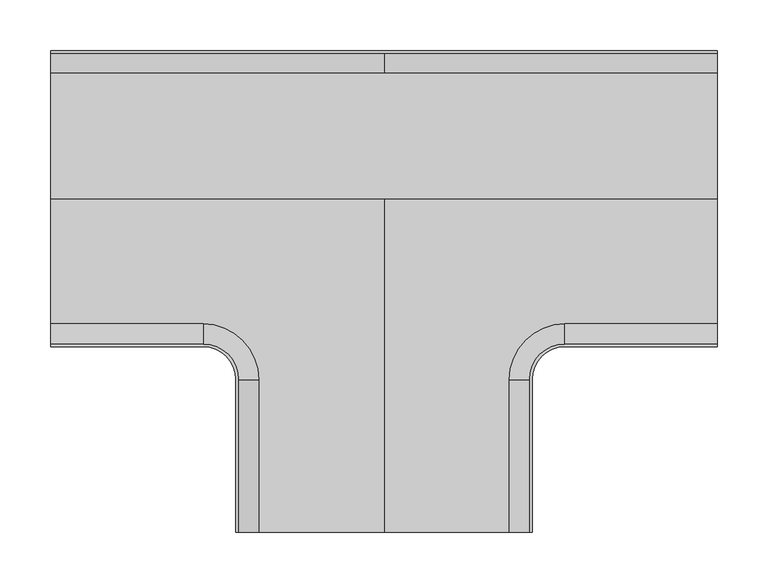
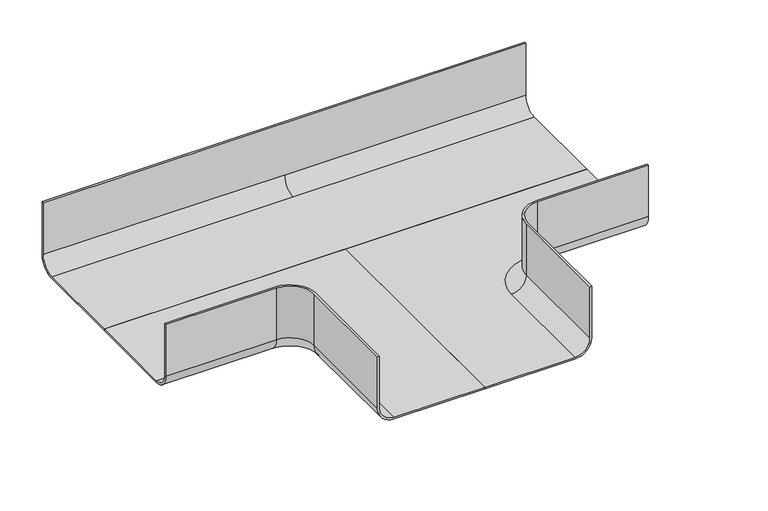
"""IFC4 building model written with IfcOpenShell, lengths in millimetres: cable carrier fitting geometry, ССT_Hyperline_FBTR-TEE Ответвитель Т-образный пластиковый : Ответвитель Т-образный пластиковый."""

from ifc_helpers import new_model, si_unit, point, frame, origin, place, context, project, spatial, polyline, circle_curve, ellipse_curve, trimmed, source, transform, mapped, element, save
from ifc_brep_helpers import plane_surface, cylinder_surface, revolved_surface, advanced_brep


def cable_carrier_fitting_dee94531(model_context):
    return source(origin(), model_context, "Body", "AdvancedBrep", [
        advanced_brep(
        [(-330.0, 146.54, -25.0), (-330.0, 124.0, -47.54), (-330.0, 0.0, -47.54), (-330.0, 0.0, -45.0), (-330.0, 124.0, -45.0), (-330.0, 144.0, -25.0), (-330.0, 144.0, 50.0), (-330.0, 146.54, 50.0), (0.0, 146.54, -25.0), (0.0, 124.0, -47.54), (330.0, 124.0, -47.54), (330.0, 0.0, -47.54), (330.0, 0.0, -45.0), (330.0, 124.0, -45.0), (0.0, 124.0, -45.0), (0.0, 144.0, -25.0), (330.0, 144.0, -25.0), (330.0, 144.0, 50.0), (330.0, 146.54, 50.0), (330.0, 146.54, -25.0)],
        [
            (0, 1, circle_curve(frame((-330.0, 124.0, -25.0), z_axis=(-1.0, 0.0, 0.0), x_axis=(0.0, 1.0, 0.0)), 22.54)),
            (1, 2),
            (2, 3),
            (3, 4),
            (4, 5, circle_curve(frame((-330.0, 124.0, -25.0), z_axis=(1.0, 0.0, 0.0), x_axis=(0.0, 1.0, 0.0)), 20.0)),
            (5, 6),
            (6, 7),
            (7, 0),
            (0, 8),
            (8, 9, circle_curve(frame((0.0, 124.0, -25.0), z_axis=(-1.0, 0.0, 0.0), x_axis=(0.0, 1.0, 0.0)), 22.54)),
            (9, 1),
            (9, 10),
            (10, 11),
            (11, 2),
            (11, 12),
            (12, 3),
            (12, 13),
            (13, 14),
            (14, 4),
            (14, 15, circle_curve(frame((0.0, 124.0, -25.0), z_axis=(1.0, 0.0, 0.0), x_axis=(0.0, 1.0, 0.0)), 20.0)),
            (15, 5),
            (15, 16),
            (16, 17),
            (17, 6),
            (7, 18),
            (18, 19),
            (19, 8),
            (18, 17),
            (16, 13, circle_curve(frame((330.0, 124.0, -25.0), z_axis=(-1.0, 0.0, 0.0), x_axis=(0.0, 1.0, 0.0)), 20.0)),
            (10, 19, circle_curve(frame((330.0, 124.0, -25.0), z_axis=(1.0, 0.0, 0.0), x_axis=(0.0, 1.0, 0.0)), 22.54)),
        ],
        [
            plane_surface(frame((-330.0, 144.0, 2.5), z_axis=(-1.0, 0.0, 0.0), x_axis=(0.0, 0.0, 1.0))),
            cylinder_surface(frame((-330.0, 124.0, -25.0), z_axis=(-1.0, 0.0, 0.0), x_axis=(0.0, 1.0, 0.0)), 22.54),
            plane_surface(frame((-330.0, 124.0, -47.54), z_axis=(0.0, 0.0, -1.0), x_axis=(1.0, 0.0, 0.0))),
            plane_surface(frame((-330.0, 0.0, -47.54), z_axis=(0.0, -1.0, 0.0), x_axis=(1.0, 0.0, 0.0))),
            plane_surface(frame((-330.0, 0.0, -45.0), z_axis=(0.0, 0.0, 1.0), x_axis=(1.0, 0.0, 0.0))),
            revolved_surface(polyline([(0.0, 144.0, -25.0), (-330.0, 144.0, -25.0)]), (-330.0, 124.0, -25.0), (1.0, 0.0, 0.0)),
            plane_surface(frame((-330.0, 144.0, -25.0), z_axis=(0.0, -1.0, 0.0), x_axis=(1.0, 0.0, 0.0))),
            plane_surface(frame((-330.0, 146.54, 50.0), z_axis=(0.0, 1.0, 0.0), x_axis=(1.0, 0.0, 0.0))),
            plane_surface(frame((330.0, 144.0, 2.5), z_axis=(1.0, 0.0, 0.0), x_axis=(0.0, 0.0, 1.0))),
            plane_surface(frame((-330.0, 144.0, 50.0), z_axis=(0.0, 0.0, 1.0), x_axis=(1.0, 0.0, 0.0))),
            cylinder_surface(frame((0.0, 124.0, -25.0), z_axis=(-1.0, 0.0, 0.0), x_axis=(0.0, 1.0, 0.0)), 22.54),
            revolved_surface(polyline([(330.0, 144.0, -25.0), (0.0, 144.0, -25.0)]), (0.0, 124.0, -25.0), (1.0, 0.0, 0.0)),
        ],
        [
            (0, [[1, 2, 3, 4, 5, 6, 7, 8]]),
            (1, [[-1, 9, 10, 11]]),
            (2, [[-2, -11, 12, 13, 14]]),
            (3, [[-3, -14, 15, 16]]),
            (4, [[-4, -16, 17, 18, 19]]),
            (5, [[-5, -19, 20, 21]]),
            (6, [[-6, -21, 22, 23, 24]]),
            (7, [[-8, 25, 26, 27, -9]]),
            (8, [[-26, 28, -23, 29, -17, -15, -13, 30]]),
            (9, [[-25, -7, -24, -28]]),
            (10, [[-10, -27, -30, -12]]),
            (11, [[-20, -18, -29, -22]]),
        ],
    ),
        advanced_brep(
        [(-330.0, -146.54, -25.0), (-330.0, -146.54, 50.0), (-330.0, -144.0, 50.0), (-330.0, -144.0, -25.0), (-330.0, -124.0, -45.0), (-330.0, 0.0, -45.0), (-330.0, 0.0, -47.54), (-330.0, -124.0, -47.54), (-179.0, -124.0, -47.54), (-179.0, -146.54, -25.0), (-179.0, -144.0, -25.0), (-179.0, -124.0, -45.0), (-179.0, -144.0, 50.0), (-179.0, -146.54, 50.0), (-146.54, -179.0, 50.0), (-146.54, -330.0, 50.0), (-144.0, -330.0, 50.0), (-144.0, -179.0, 50.0), (-124.0, -179.0, -47.54), (-146.54, -179.0, -25.0), (-144.0, -179.0, -25.0), (-124.0, -179.0, -45.0), (0.0, -330.0, -47.54), (0.0, -330.0, -45.0), (-124.0, -330.0, -45.0), (-144.0, -330.0, -25.0), (-146.54, -330.0, -25.0), (-124.0, -330.0, -47.54), (0.0, 0.0, -45.0), (0.0, 0.0, -47.54)],
        [
            (0, 1),
            (1, 2),
            (2, 3),
            (3, 4, circle_curve(frame((-330.0, -124.0, -25.0), z_axis=(1.0, 0.0, 0.0), x_axis=(0.0, -1.0, 0.0)), 20.0)),
            (4, 5),
            (5, 6),
            (6, 7),
            (7, 0, circle_curve(frame((-330.0, -124.0, -25.0), z_axis=(-1.0, 0.0, 0.0), x_axis=(0.0, -1.0, 0.0)), 22.54)),
            (7, 8),
            (8, 9, circle_curve(frame((-179.0, -124.0, -25.0), z_axis=(-1.0, 0.0, 0.0), x_axis=(0.0, -1.0, 0.0)), 22.54)),
            (9, 0),
            (3, 10),
            (10, 11, circle_curve(frame((-179.0, -124.0, -25.0), z_axis=(1.0, 0.0, 0.0), x_axis=(0.0, -1.0, 0.0)), 20.0)),
            (11, 4),
            (2, 12),
            (12, 10),
            (1, 13),
            (13, 14, circle_curve(frame((-179.0, -179.0, 50.0), z_axis=(0.0, 0.0, -1.0), x_axis=(0.0, 1.0, 0.0)), 32.46)),
            (14, 15),
            (15, 16),
            (16, 17),
            (17, 12, circle_curve(frame((-179.0, -179.0, 50.0), z_axis=(0.0, 0.0, 1.0), x_axis=(0.0, 1.0, 0.0)), 35.0)),
            (9, 13),
            (8, 18, circle_curve(frame((-179.0, -179.0, -47.54), z_axis=(0.0, 0.0, -1.0), x_axis=(0.0, 1.0, 0.0)), 55.0)),
            (18, 19, circle_curve(frame((-124.0, -179.0, -25.0), z_axis=(0.0, 1.0, 0.0), x_axis=(-1.0, 0.0, 0.0)), 22.54)),
            (19, 9, circle_curve(frame((-179.0, -179.0, -25.0), z_axis=(0.0, 0.0, 1.0), x_axis=(0.0, 1.0, 0.0)), 32.46)),
            (10, 20, circle_curve(frame((-179.0, -179.0, -25.0), z_axis=(0.0, 0.0, -1.0), x_axis=(0.0, 1.0, 0.0)), 35.0)),
            (20, 21, circle_curve(frame((-124.0, -179.0, -25.0), z_axis=(0.0, -1.0, 0.0), x_axis=(-1.0, 0.0, 0.0)), 20.0)),
            (21, 11, circle_curve(frame((-179.0, -179.0, -45.0), z_axis=(0.0, 0.0, 1.0), x_axis=(0.0, 1.0, 0.0)), 55.0)),
            (17, 20),
            (19, 14),
            (22, 23),
            (23, 24),
            (24, 25, circle_curve(frame((-124.0, -330.0, -25.0), z_axis=(0.0, 1.0, 0.0), x_axis=(-1.0, 0.0, 0.0)), 20.0)),
            (25, 16),
            (15, 26),
            (26, 27, circle_curve(frame((-124.0, -330.0, -25.0), z_axis=(0.0, -1.0, 0.0), x_axis=(-1.0, 0.0, 0.0)), 22.54)),
            (27, 22),
            (26, 19),
            (18, 27),
            (20, 25),
            (24, 21),
            (23, 28),
            (28, 5),
            (6, 29),
            (29, 22),
            (28, 29),
        ],
        [
            plane_surface(frame((-330.0, -144.0, 0.0), z_axis=(-1.0, 0.0, 0.0), x_axis=(0.0, 0.0, 1.0))),
            cylinder_surface(frame((-330.0, -124.0, -25.0), z_axis=(-1.0, 0.0, 0.0), x_axis=(0.0, -1.0, 0.0)), 22.54),
            revolved_surface(polyline([(-179.0, -144.0, -25.0), (-330.0, -144.0, -25.0)]), (-330.0, -124.0, -25.0), (1.0, 0.0, 0.0)),
            plane_surface(frame((-330.0, -144.0, -25.0), z_axis=(0.0, 1.0, 0.0), x_axis=(1.0, 0.0, 0.0))),
            plane_surface(frame((-330.0, -144.0, 50.0), z_axis=(0.0, 0.0, 1.0), x_axis=(1.0, 0.0, 0.0))),
            plane_surface(frame((-330.0, -146.54, 50.0), z_axis=(0.0, -1.0, 0.0), x_axis=(1.0, 0.0, 0.0))),
            revolved_surface(trimmed(ellipse_curve(frame((-179.0, -124.0, -25.0), z_axis=(1.0, 0.0, 0.0), x_axis=(0.0, -1.0, 0.0)), 22.54, 22.54), [point((-179.0, -146.54, -25.0))], [point((-179.0, -124.0, -47.54))], True, "CARTESIAN"), (-179.0, -179.0, 0.0), (0.0, 0.0, 1.0)),
            revolved_surface(trimmed(ellipse_curve(frame((-179.0, -124.0, -25.0), z_axis=(-1.0, 0.0, 0.0), x_axis=(0.0, -1.0, 0.0)), 20.0, 20.0), [point((-179.0, -124.0, -45.0))], [point((-179.0, -144.0, -25.0))], True, "CARTESIAN"), (-179.0, -179.0, 0.0), (0.0, 0.0, 1.0)),
            cylinder_surface(frame((-179.0, -179.0, 0.0), z_axis=(0.0, 0.0, 1.0), x_axis=(0.0, 1.0, 0.0)), 35.0),
            revolved_surface(polyline([(-179.0, -146.54, 50.0), (-179.0, -146.54, -25.0)]), (-179.0, -179.0, 0.0), (0.0, 0.0, 1.0)),
            plane_surface(frame((-144.0, -330.0, 0.0), z_axis=(0.0, -1.0, 0.0), x_axis=(0.0, 0.0, 1.0))),
            cylinder_surface(frame((-124.0, -179.0, -25.0), z_axis=(0.0, 1.0, 0.0), x_axis=(-1.0, 0.0, 0.0)), 22.54),
            revolved_surface(polyline([(-144.0, -330.0, -25.0), (-144.0, -179.0, -25.0)]), (-124.0, -179.0, -25.0), (0.0, -1.0, 0.0)),
            plane_surface(frame((-144.0, -179.0, -25.0), z_axis=(1.0, 0.0, 0.0), x_axis=(0.0, -1.0, 0.0))),
            plane_surface(frame((-146.54, -179.0, 50.0), z_axis=(-1.0, 0.0, 0.0), x_axis=(0.0, -1.0, 0.0))),
            plane_surface(frame((0.0, -179.0, -45.0), z_axis=(0.0, 0.0, 1.0), x_axis=(0.0, 1.0, 0.0))),
            plane_surface(frame((0.0, -179.0, -47.54), z_axis=(0.0, 0.0, -1.0), x_axis=(0.0, -1.0, 0.0))),
            plane_surface(frame((-179.0, 0.0, -45.0), z_axis=(0.0, 1.0, 0.0), x_axis=(0.0, 0.0, -1.0))),
            plane_surface(frame((0.0, 0.0, -45.0), z_axis=(1.0, 0.0, 0.0), x_axis=(0.0, 0.0, -1.0))),
        ],
        [
            (0, [[1, 2, 3, 4, 5, 6, 7, 8]]),
            (1, [[9, 10, 11, -8]]),
            (2, [[12, 13, 14, -4]]),
            (3, [[15, 16, -12, -3]]),
            (4, [[17, 18, 19, 20, 21, 22, -15, -2]]),
            (5, [[-11, 23, -17, -1]]),
            (6, [[24, 25, 26, -10]]),
            (7, [[-13, 27, 28, 29]]),
            (8, [[-22, 30, -27, -16]]),
            (9, [[-23, -26, 31, -18]]),
            (10, [[32, 33, 34, 35, -20, 36, 37, 38]]),
            (11, [[-37, 39, -25, 40]]),
            (12, [[-28, 41, -34, 42]]),
            (13, [[-35, -41, -30, -21]]),
            (14, [[-31, -39, -36, -19]]),
            (15, [[43, 44, -5, -14, -29, -42, -33]]),
            (16, [[45, 46, -38, -40, -24, -9, -7]]),
            (17, [[47, -45, -6, -44]]),
            (18, [[-32, -46, -47, -43]]),
        ],
    ),
        advanced_brep(
        [(330.0, -146.54, -25.0), (330.0, -124.0, -47.54), (330.0, 0.0, -47.54), (330.0, 0.0, -45.0), (330.0, -124.0, -45.0), (330.0, -144.0, -25.0), (330.0, -144.0, 50.0), (330.0, -146.54, 50.0), (179.0, -146.54, -25.0), (179.0, -124.0, -47.54), (179.0, -124.0, -45.0), (179.0, -144.0, -25.0), (179.0, -144.0, 50.0), (144.0, -179.0, 50.0), (144.0, -330.0, 50.0), (146.54, -330.0, 50.0), (146.54, -179.0, 50.0), (179.0, -146.54, 50.0), (146.54, -179.0, -25.0), (124.0, -179.0, -47.54), (124.0, -179.0, -45.0), (144.0, -179.0, -25.0), (0.0, -330.0, -47.54), (124.0, -330.0, -47.54), (146.54, -330.0, -25.0), (144.0, -330.0, -25.0), (124.0, -330.0, -45.0), (0.0, -330.0, -45.0), (0.0, 0.0, -45.0), (0.0, 0.0, -47.54)],
        [
            (0, 1, circle_curve(frame((330.0, -124.0, -25.0), z_axis=(1.0, 0.0, 0.0), x_axis=(0.0, -1.0, 0.0)), 22.54)),
            (1, 2),
            (2, 3),
            (3, 4),
            (4, 5, circle_curve(frame((330.0, -124.0, -25.0), z_axis=(-1.0, 0.0, 0.0), x_axis=(0.0, -1.0, 0.0)), 20.0)),
            (5, 6),
            (6, 7),
            (7, 0),
            (0, 8),
            (8, 9, circle_curve(frame((179.0, -124.0, -25.0), z_axis=(1.0, 0.0, 0.0), x_axis=(0.0, -1.0, 0.0)), 22.54)),
            (9, 1),
            (4, 10),
            (10, 11, circle_curve(frame((179.0, -124.0, -25.0), z_axis=(-1.0, 0.0, 0.0), x_axis=(0.0, -1.0, 0.0)), 20.0)),
            (11, 5),
            (11, 12),
            (12, 6),
            (12, 13, circle_curve(frame((179.0, -179.0, 50.0), z_axis=(0.0, 0.0, 1.0), x_axis=(0.0, 1.0, 0.0)), 35.0)),
            (13, 14),
            (14, 15),
            (15, 16),
            (16, 17, circle_curve(frame((179.0, -179.0, 50.0), z_axis=(0.0, 0.0, -1.0), x_axis=(0.0, 1.0, 0.0)), 32.46)),
            (17, 7),
            (17, 8),
            (8, 18, circle_curve(frame((179.0, -179.0, -25.0), z_axis=(0.0, 0.0, 1.0), x_axis=(0.0, 1.0, 0.0)), 32.46)),
            (18, 19, circle_curve(frame((124.0, -179.0, -25.0), z_axis=(0.0, 1.0, 0.0), x_axis=(1.0, 0.0, 0.0)), 22.54)),
            (19, 9, circle_curve(frame((179.0, -179.0, -47.54), z_axis=(0.0, 0.0, -1.0), x_axis=(0.0, 1.0, 0.0)), 55.0)),
            (10, 20, circle_curve(frame((179.0, -179.0, -45.0), z_axis=(0.0, 0.0, 1.0), x_axis=(0.0, 1.0, 0.0)), 55.0)),
            (20, 21, circle_curve(frame((124.0, -179.0, -25.0), z_axis=(0.0, -1.0, 0.0), x_axis=(1.0, 0.0, 0.0)), 20.0)),
            (21, 11, circle_curve(frame((179.0, -179.0, -25.0), z_axis=(0.0, 0.0, -1.0), x_axis=(0.0, 1.0, 0.0)), 35.0)),
            (21, 13),
            (16, 18),
            (22, 23),
            (23, 24, circle_curve(frame((124.0, -330.0, -25.0), z_axis=(0.0, -1.0, 0.0), x_axis=(1.0, 0.0, 0.0)), 22.54)),
            (24, 15),
            (14, 25),
            (25, 26, circle_curve(frame((124.0, -330.0, -25.0), z_axis=(0.0, 1.0, 0.0), x_axis=(1.0, 0.0, 0.0)), 20.0)),
            (26, 27),
            (27, 22),
            (23, 19),
            (18, 24),
            (20, 26),
            (25, 21),
            (3, 28),
            (28, 27),
            (22, 29),
            (29, 2),
            (29, 28),
        ],
        [
            plane_surface(frame((330.0, -144.0, 0.0), z_axis=(1.0, 0.0, 0.0), x_axis=(0.0, 0.0, 1.0))),
            cylinder_surface(frame((330.0, -124.0, -25.0), z_axis=(1.0, 0.0, 0.0), x_axis=(0.0, -1.0, 0.0)), 22.54),
            revolved_surface(polyline([(179.0, -144.0, -25.0), (330.0, -144.0, -25.0)]), (330.0, -124.0, -25.0), (-1.0, 0.0, 0.0)),
            plane_surface(frame((330.0, -144.0, -25.0), z_axis=(0.0, 1.0, 0.0), x_axis=(-1.0, 0.0, 0.0))),
            plane_surface(frame((330.0, -144.0, 50.0), z_axis=(0.0, 0.0, 1.0), x_axis=(-1.0, 0.0, 0.0))),
            plane_surface(frame((330.0, -146.54, 50.0), z_axis=(0.0, -1.0, 0.0), x_axis=(-1.0, 0.0, 0.0))),
            revolved_surface(trimmed(ellipse_curve(frame((179.0, -124.0, -25.0), z_axis=(1.0, 0.0, 0.0), x_axis=(0.0, -1.0, 0.0)), 22.54, 22.54), [point((179.0, -146.54, -25.0))], [point((179.0, -124.0, -47.54))], True, "CARTESIAN"), (179.0, -179.0, 0.0), (0.0, 0.0, 1.0)),
            revolved_surface(trimmed(ellipse_curve(frame((179.0, -124.0, -25.0), z_axis=(-1.0, 0.0, 0.0), x_axis=(0.0, -1.0, 0.0)), 20.0, 20.0), [point((179.0, -124.0, -45.0))], [point((179.0, -144.0, -25.0))], True, "CARTESIAN"), (179.0, -179.0, 0.0), (0.0, 0.0, 1.0)),
            cylinder_surface(frame((179.0, -179.0, 0.0), z_axis=(0.0, 0.0, 1.0), x_axis=(0.0, 1.0, 0.0)), 35.0),
            revolved_surface(polyline([(179.0, -146.54, 50.0), (179.0, -146.54, -25.0)]), (179.0, -179.0, 0.0), (0.0, 0.0, 1.0)),
            plane_surface(frame((144.0, -330.0, 0.0), z_axis=(0.0, -1.0, 0.0), x_axis=(0.0, 0.0, 1.0))),
            cylinder_surface(frame((124.0, -179.0, -25.0), z_axis=(0.0, 1.0, 0.0), x_axis=(1.0, 0.0, 0.0)), 22.54),
            revolved_surface(polyline([(144.0, -330.0, -25.0), (144.0, -179.0, -25.0)]), (124.0, -179.0, -25.0), (0.0, -1.0, 0.0)),
            plane_surface(frame((144.0, -179.0, -25.0), z_axis=(-1.0, 0.0, 0.0), x_axis=(0.0, -1.0, 0.0))),
            plane_surface(frame((146.54, -179.0, 50.0), z_axis=(1.0, 0.0, 0.0), x_axis=(0.0, -1.0, 0.0))),
            plane_surface(frame((0.0, -179.0, -45.0), z_axis=(0.0, 0.0, 1.0), x_axis=(0.0, 1.0, 0.0))),
            plane_surface(frame((0.0, -179.0, -47.54), z_axis=(0.0, 0.0, -1.0), x_axis=(0.0, -1.0, 0.0))),
            plane_surface(frame((179.0, 0.0, -45.0), z_axis=(0.0, 1.0, 0.0), x_axis=(0.0, 0.0, -1.0))),
            plane_surface(frame((0.0, 0.0, -45.0), z_axis=(-1.0, 0.0, 0.0), x_axis=(0.0, 0.0, -1.0))),
        ],
        [
            (0, [[1, 2, 3, 4, 5, 6, 7, 8]]),
            (1, [[-1, 9, 10, 11]]),
            (2, [[-5, 12, 13, 14]]),
            (3, [[-6, -14, 15, 16]]),
            (4, [[-7, -16, 17, 18, 19, 20, 21, 22]]),
            (5, [[-8, -22, 23, -9]]),
            (6, [[-10, 24, 25, 26]]),
            (7, [[27, 28, 29, -13]]),
            (8, [[-15, -29, 30, -17]]),
            (9, [[-21, 31, -24, -23]]),
            (10, [[32, 33, 34, -19, 35, 36, 37, 38]]),
            (11, [[39, -25, 40, -33]]),
            (12, [[41, -36, 42, -28]]),
            (13, [[-18, -30, -42, -35]]),
            (14, [[-20, -34, -40, -31]]),
            (15, [[-37, -41, -27, -12, -4, 43, 44]]),
            (16, [[-2, -11, -26, -39, -32, 45, 46]]),
            (17, [[-43, -3, -46, 47]]),
            (18, [[-44, -47, -45, -38]]),
        ],
    ),
    ])


if __name__ == "__main__":
    model = new_model("IFC4")
    model_context = context("Model", 3, world=origin())
    ifc_project = project(units=[si_unit("LENGTHUNIT", "METRE", prefix="MILLI")], contexts=[model_context])
    site = spatial("IfcSite", under=ifc_project)
    building = spatial("IfcBuilding", under=site)
    placement = place(None, origin())
    cable_carrier_fitting_shape = cable_carrier_fitting_dee94531(model_context)
    element("IfcCableCarrierFitting", 1, ObjectType="ССT_Hyperline_FBTR-TEE Ответвитель Т-образный пластиковый : Ответвитель Т-образный пластиковый", at=placement, inside=building, context=model_context, shape_type="MappedRepresentation", body=[
        mapped(cable_carrier_fitting_shape, transform((0.0, 0.0, 0.0), x_axis=(1.0, 0.0, 0.0), y_axis=(0.0, 1.0, 0.0), z_axis=(0.0, 0.0, 1.0))),
    ])
    save(model, "model.ifc")
